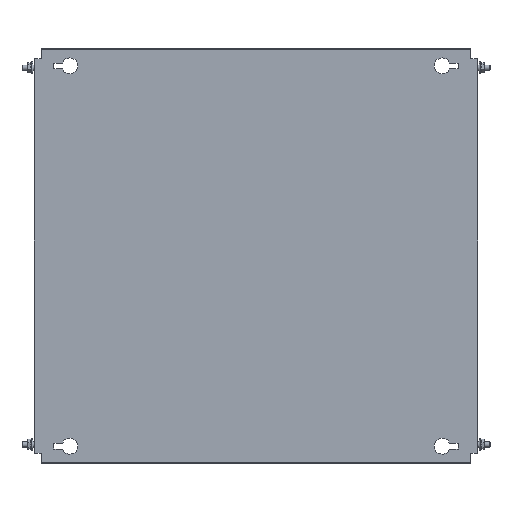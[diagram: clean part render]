
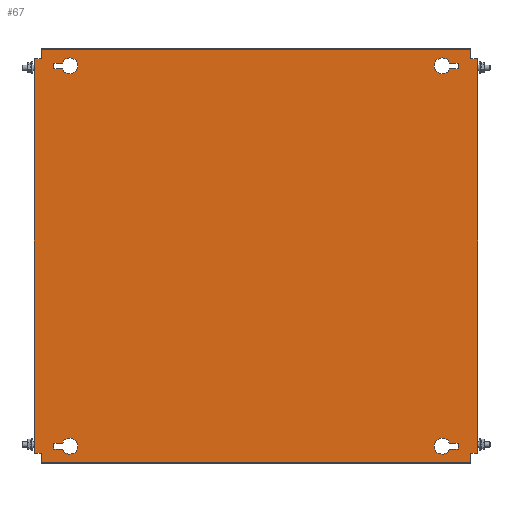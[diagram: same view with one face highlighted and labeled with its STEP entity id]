
A CAD part, top view. The second image highlights one B-rep face of the part: STEP entity #67.
In plain terms, the highlighted planar face has unit normal (0, 0, 1).
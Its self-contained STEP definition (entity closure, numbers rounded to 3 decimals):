
#67 = ADVANCED_FACE('',(#68,#103,#138,#300,#335),#370,.T.);
#68 = FACE_BOUND('',#69,.T.);
#69 = EDGE_LOOP('',(#70,#80,#88,#96));
#70 = ORIENTED_EDGE('',*,*,#71,.T.);
#71 = EDGE_CURVE('',#72,#74,#76,.T.);
#72 = VERTEX_POINT('',#73);
#73 = CARTESIAN_POINT('',(218.393,217.75,2.));
#74 = VERTEX_POINT('',#75);
#75 = CARTESIAN_POINT('',(228.,217.75,2.));
#76 = LINE('',#77,#78);
#77 = CARTESIAN_POINT('',(227.,217.75,2.));
#78 = VECTOR('',#79,1.);
#79 = DIRECTION('',(1.,0.,0.));
#80 = ORIENTED_EDGE('',*,*,#81,.T.);
#81 = EDGE_CURVE('',#74,#82,#84,.T.);
#82 = VERTEX_POINT('',#83);
#83 = CARTESIAN_POINT('',(228.,211.25,2.));
#84 = LINE('',#85,#86);
#85 = CARTESIAN_POINT('',(228.,217.75,2.));
#86 = VECTOR('',#87,1.);
#87 = DIRECTION('',(0.,-1.,0.));
#88 = ORIENTED_EDGE('',*,*,#89,.T.);
#89 = EDGE_CURVE('',#82,#90,#92,.T.);
#90 = VERTEX_POINT('',#91);
#91 = CARTESIAN_POINT('',(218.393,211.25,2.));
#92 = LINE('',#93,#94);
#93 = CARTESIAN_POINT('',(227.,211.25,2.));
#94 = VECTOR('',#95,1.);
#95 = DIRECTION('',(-1.,0.,0.));
#96 = ORIENTED_EDGE('',*,*,#97,.T.);
#97 = EDGE_CURVE('',#90,#72,#98,.T.);
#98 = CIRCLE('',#99,9.);
#99 = AXIS2_PLACEMENT_3D('',#100,#101,#102);
#100 = CARTESIAN_POINT('',(210.,214.5,2.));
#101 = DIRECTION('',(0.,0.,-1.));
#102 = DIRECTION('',(1.,0.,0.));
#103 = FACE_BOUND('',#104,.T.);
#104 = EDGE_LOOP('',(#105,#115,#123,#131));
#105 = ORIENTED_EDGE('',*,*,#106,.T.);
#106 = EDGE_CURVE('',#107,#109,#111,.T.);
#107 = VERTEX_POINT('',#108);
#108 = CARTESIAN_POINT('',(-218.393,-217.75,2.));
#109 = VERTEX_POINT('',#110);
#110 = CARTESIAN_POINT('',(-228.,-217.75,2.));
#111 = LINE('',#112,#113);
#112 = CARTESIAN_POINT('',(-227.,-217.75,2.));
#113 = VECTOR('',#114,1.);
#114 = DIRECTION('',(-1.,0.,0.));
#115 = ORIENTED_EDGE('',*,*,#116,.T.);
#116 = EDGE_CURVE('',#109,#117,#119,.T.);
#117 = VERTEX_POINT('',#118);
#118 = CARTESIAN_POINT('',(-228.,-211.25,2.));
#119 = LINE('',#120,#121);
#120 = CARTESIAN_POINT('',(-228.,-217.75,2.));
#121 = VECTOR('',#122,1.);
#122 = DIRECTION('',(0.,1.,0.));
#123 = ORIENTED_EDGE('',*,*,#124,.T.);
#124 = EDGE_CURVE('',#117,#125,#127,.T.);
#125 = VERTEX_POINT('',#126);
#126 = CARTESIAN_POINT('',(-218.393,-211.25,2.));
#127 = LINE('',#128,#129);
#128 = CARTESIAN_POINT('',(-227.,-211.25,2.));
#129 = VECTOR('',#130,1.);
#130 = DIRECTION('',(1.,-0.,-0.));
#131 = ORIENTED_EDGE('',*,*,#132,.T.);
#132 = EDGE_CURVE('',#125,#107,#133,.T.);
#133 = CIRCLE('',#134,9.);
#134 = AXIS2_PLACEMENT_3D('',#135,#136,#137);
#135 = CARTESIAN_POINT('',(-210.,-214.5,2.));
#136 = DIRECTION('',(0.,0.,-1.));
#137 = DIRECTION('',(-1.,0.,0.));
#138 = FACE_BOUND('',#139,.T.);
#139 = EDGE_LOOP('',(#140,#150,#158,#166,#174,#182,#190,#198,#206,#214,
    #222,#230,#238,#246,#254,#262,#270,#278,#286,#294));
#140 = ORIENTED_EDGE('',*,*,#141,.F.);
#141 = EDGE_CURVE('',#142,#144,#146,.T.);
#142 = VERTEX_POINT('',#143);
#143 = CARTESIAN_POINT('',(-247.4,222.5,2.));
#144 = VERTEX_POINT('',#145);
#145 = CARTESIAN_POINT('',(-242.,222.5,2.));
#146 = LINE('',#147,#148);
#147 = CARTESIAN_POINT('',(-248.,222.5,2.));
#148 = VECTOR('',#149,1.);
#149 = DIRECTION('',(1.,0.,-0.));
#150 = ORIENTED_EDGE('',*,*,#151,.T.);
#151 = EDGE_CURVE('',#142,#152,#154,.T.);
#152 = VERTEX_POINT('',#153);
#153 = CARTESIAN_POINT('',(-250.,222.5,2.));
#154 = LINE('',#155,#156);
#155 = CARTESIAN_POINT('',(-247.4,222.5,2.));
#156 = VECTOR('',#157,1.);
#157 = DIRECTION('',(-1.,0.,0.));
#158 = ORIENTED_EDGE('',*,*,#159,.F.);
#159 = EDGE_CURVE('',#160,#152,#162,.T.);
#160 = VERTEX_POINT('',#161);
#161 = CARTESIAN_POINT('',(-250.,-222.5,2.));
#162 = LINE('',#163,#164);
#163 = CARTESIAN_POINT('',(-250.,-232.5,2.));
#164 = VECTOR('',#165,1.);
#165 = DIRECTION('',(0.,1.,-0.));
#166 = ORIENTED_EDGE('',*,*,#167,.F.);
#167 = EDGE_CURVE('',#168,#160,#170,.T.);
#168 = VERTEX_POINT('',#169);
#169 = CARTESIAN_POINT('',(-247.4,-222.5,2.));
#170 = LINE('',#171,#172);
#171 = CARTESIAN_POINT('',(-242.,-222.5,2.));
#172 = VECTOR('',#173,1.);
#173 = DIRECTION('',(-1.,-0.,-0.));
#174 = ORIENTED_EDGE('',*,*,#175,.T.);
#175 = EDGE_CURVE('',#168,#176,#178,.T.);
#176 = VERTEX_POINT('',#177);
#177 = CARTESIAN_POINT('',(-242.,-222.5,2.));
#178 = LINE('',#179,#180);
#179 = CARTESIAN_POINT('',(-248.,-222.5,2.));
#180 = VECTOR('',#181,1.);
#181 = DIRECTION('',(1.,0.,-0.));
#182 = ORIENTED_EDGE('',*,*,#183,.T.);
#183 = EDGE_CURVE('',#176,#184,#186,.T.);
#184 = VERTEX_POINT('',#185);
#185 = CARTESIAN_POINT('',(-242.,-231.9,2.));
#186 = LINE('',#187,#188);
#187 = CARTESIAN_POINT('',(-242.,232.5,2.));
#188 = VECTOR('',#189,1.);
#189 = DIRECTION('',(0.,-1.,0.));
#190 = ORIENTED_EDGE('',*,*,#191,.T.);
#191 = EDGE_CURVE('',#184,#192,#194,.T.);
#192 = VERTEX_POINT('',#193);
#193 = CARTESIAN_POINT('',(-242.,-232.5,2.));
#194 = LINE('',#195,#196);
#195 = CARTESIAN_POINT('',(-242.,-231.9,2.));
#196 = VECTOR('',#197,1.);
#197 = DIRECTION('',(-0.,-1.,-0.));
#198 = ORIENTED_EDGE('',*,*,#199,.T.);
#199 = EDGE_CURVE('',#192,#200,#202,.T.);
#200 = VERTEX_POINT('',#201);
#201 = CARTESIAN_POINT('',(242.,-232.5,2.));
#202 = LINE('',#203,#204);
#203 = CARTESIAN_POINT('',(242.,-232.5,2.));
#204 = VECTOR('',#205,1.);
#205 = DIRECTION('',(1.,0.,0.));
#206 = ORIENTED_EDGE('',*,*,#207,.F.);
#207 = EDGE_CURVE('',#208,#200,#210,.T.);
#208 = VERTEX_POINT('',#209);
#209 = CARTESIAN_POINT('',(242.,-231.9,2.));
#210 = LINE('',#211,#212);
#211 = CARTESIAN_POINT('',(242.,-232.5,2.));
#212 = VECTOR('',#213,1.);
#213 = DIRECTION('',(0.,-1.,0.));
#214 = ORIENTED_EDGE('',*,*,#215,.T.);
#215 = EDGE_CURVE('',#208,#216,#218,.T.);
#216 = VERTEX_POINT('',#217);
#217 = CARTESIAN_POINT('',(242.,-222.5,2.));
#218 = LINE('',#219,#220);
#219 = CARTESIAN_POINT('',(242.,232.5,2.));
#220 = VECTOR('',#221,1.);
#221 = DIRECTION('',(0.,1.,-0.));
#222 = ORIENTED_EDGE('',*,*,#223,.F.);
#223 = EDGE_CURVE('',#224,#216,#226,.T.);
#224 = VERTEX_POINT('',#225);
#225 = CARTESIAN_POINT('',(247.4,-222.5,2.));
#226 = LINE('',#227,#228);
#227 = CARTESIAN_POINT('',(248.,-222.5,2.));
#228 = VECTOR('',#229,1.);
#229 = DIRECTION('',(-1.,0.,-0.));
#230 = ORIENTED_EDGE('',*,*,#231,.T.);
#231 = EDGE_CURVE('',#224,#232,#234,.T.);
#232 = VERTEX_POINT('',#233);
#233 = CARTESIAN_POINT('',(250.,-222.5,2.));
#234 = LINE('',#235,#236);
#235 = CARTESIAN_POINT('',(247.4,-222.5,2.));
#236 = VECTOR('',#237,1.);
#237 = DIRECTION('',(1.,-0.,0.));
#238 = ORIENTED_EDGE('',*,*,#239,.F.);
#239 = EDGE_CURVE('',#240,#232,#242,.T.);
#240 = VERTEX_POINT('',#241);
#241 = CARTESIAN_POINT('',(250.,222.5,2.));
#242 = LINE('',#243,#244);
#243 = CARTESIAN_POINT('',(250.,-232.5,2.));
#244 = VECTOR('',#245,1.);
#245 = DIRECTION('',(0.,-1.,-0.));
#246 = ORIENTED_EDGE('',*,*,#247,.F.);
#247 = EDGE_CURVE('',#248,#240,#250,.T.);
#248 = VERTEX_POINT('',#249);
#249 = CARTESIAN_POINT('',(247.4,222.5,2.));
#250 = LINE('',#251,#252);
#251 = CARTESIAN_POINT('',(-242.,222.5,2.));
#252 = VECTOR('',#253,1.);
#253 = DIRECTION('',(1.,-0.,0.));
#254 = ORIENTED_EDGE('',*,*,#255,.T.);
#255 = EDGE_CURVE('',#248,#256,#258,.T.);
#256 = VERTEX_POINT('',#257);
#257 = CARTESIAN_POINT('',(242.,222.5,2.));
#258 = LINE('',#259,#260);
#259 = CARTESIAN_POINT('',(248.,222.5,2.));
#260 = VECTOR('',#261,1.);
#261 = DIRECTION('',(-1.,0.,-0.));
#262 = ORIENTED_EDGE('',*,*,#263,.T.);
#263 = EDGE_CURVE('',#256,#264,#266,.T.);
#264 = VERTEX_POINT('',#265);
#265 = CARTESIAN_POINT('',(242.,231.9,2.));
#266 = LINE('',#267,#268);
#267 = CARTESIAN_POINT('',(242.,232.5,2.));
#268 = VECTOR('',#269,1.);
#269 = DIRECTION('',(0.,1.,-0.));
#270 = ORIENTED_EDGE('',*,*,#271,.T.);
#271 = EDGE_CURVE('',#264,#272,#274,.T.);
#272 = VERTEX_POINT('',#273);
#273 = CARTESIAN_POINT('',(242.,232.5,2.));
#274 = LINE('',#275,#276);
#275 = CARTESIAN_POINT('',(242.,231.9,2.));
#276 = VECTOR('',#277,1.);
#277 = DIRECTION('',(-0.,1.,-0.));
#278 = ORIENTED_EDGE('',*,*,#279,.T.);
#279 = EDGE_CURVE('',#272,#280,#282,.T.);
#280 = VERTEX_POINT('',#281);
#281 = CARTESIAN_POINT('',(-242.,232.5,2.));
#282 = LINE('',#283,#284);
#283 = CARTESIAN_POINT('',(-242.,232.5,2.));
#284 = VECTOR('',#285,1.);
#285 = DIRECTION('',(-1.,0.,0.));
#286 = ORIENTED_EDGE('',*,*,#287,.F.);
#287 = EDGE_CURVE('',#288,#280,#290,.T.);
#288 = VERTEX_POINT('',#289);
#289 = CARTESIAN_POINT('',(-242.,231.9,2.));
#290 = LINE('',#291,#292);
#291 = CARTESIAN_POINT('',(-242.,-232.5,2.));
#292 = VECTOR('',#293,1.);
#293 = DIRECTION('',(0.,1.,-0.));
#294 = ORIENTED_EDGE('',*,*,#295,.T.);
#295 = EDGE_CURVE('',#288,#144,#296,.T.);
#296 = LINE('',#297,#298);
#297 = CARTESIAN_POINT('',(-242.,232.5,2.));
#298 = VECTOR('',#299,1.);
#299 = DIRECTION('',(0.,-1.,0.));
#300 = FACE_BOUND('',#301,.T.);
#301 = EDGE_LOOP('',(#302,#312,#320,#328));
#302 = ORIENTED_EDGE('',*,*,#303,.F.);
#303 = EDGE_CURVE('',#304,#306,#308,.T.);
#304 = VERTEX_POINT('',#305);
#305 = CARTESIAN_POINT('',(228.,-211.25,2.));
#306 = VERTEX_POINT('',#307);
#307 = CARTESIAN_POINT('',(218.393,-211.25,2.));
#308 = LINE('',#309,#310);
#309 = CARTESIAN_POINT('',(218.393,-211.25,2.));
#310 = VECTOR('',#311,1.);
#311 = DIRECTION('',(-1.,0.,0.));
#312 = ORIENTED_EDGE('',*,*,#313,.F.);
#313 = EDGE_CURVE('',#314,#304,#316,.T.);
#314 = VERTEX_POINT('',#315);
#315 = CARTESIAN_POINT('',(228.,-217.75,2.));
#316 = LINE('',#317,#318);
#317 = CARTESIAN_POINT('',(228.,-211.25,2.));
#318 = VECTOR('',#319,1.);
#319 = DIRECTION('',(0.,1.,0.));
#320 = ORIENTED_EDGE('',*,*,#321,.F.);
#321 = EDGE_CURVE('',#322,#314,#324,.T.);
#322 = VERTEX_POINT('',#323);
#323 = CARTESIAN_POINT('',(218.393,-217.75,2.));
#324 = LINE('',#325,#326);
#325 = CARTESIAN_POINT('',(227.,-217.75,2.));
#326 = VECTOR('',#327,1.);
#327 = DIRECTION('',(1.,0.,0.));
#328 = ORIENTED_EDGE('',*,*,#329,.F.);
#329 = EDGE_CURVE('',#306,#322,#330,.T.);
#330 = CIRCLE('',#331,9.);
#331 = AXIS2_PLACEMENT_3D('',#332,#333,#334);
#332 = CARTESIAN_POINT('',(210.,-214.5,2.));
#333 = DIRECTION('',(0.,-0.,1.));
#334 = DIRECTION('',(1.,0.,0.));
#335 = FACE_BOUND('',#336,.T.);
#336 = EDGE_LOOP('',(#337,#347,#355,#363));
#337 = ORIENTED_EDGE('',*,*,#338,.F.);
#338 = EDGE_CURVE('',#339,#341,#343,.T.);
#339 = VERTEX_POINT('',#340);
#340 = CARTESIAN_POINT('',(-228.,211.25,2.));
#341 = VERTEX_POINT('',#342);
#342 = CARTESIAN_POINT('',(-218.393,211.25,2.));
#343 = LINE('',#344,#345);
#344 = CARTESIAN_POINT('',(-218.393,211.25,2.));
#345 = VECTOR('',#346,1.);
#346 = DIRECTION('',(1.,0.,0.));
#347 = ORIENTED_EDGE('',*,*,#348,.F.);
#348 = EDGE_CURVE('',#349,#339,#351,.T.);
#349 = VERTEX_POINT('',#350);
#350 = CARTESIAN_POINT('',(-228.,217.75,2.));
#351 = LINE('',#352,#353);
#352 = CARTESIAN_POINT('',(-228.,211.25,2.));
#353 = VECTOR('',#354,1.);
#354 = DIRECTION('',(0.,-1.,0.));
#355 = ORIENTED_EDGE('',*,*,#356,.F.);
#356 = EDGE_CURVE('',#357,#349,#359,.T.);
#357 = VERTEX_POINT('',#358);
#358 = CARTESIAN_POINT('',(-218.393,217.75,2.));
#359 = LINE('',#360,#361);
#360 = CARTESIAN_POINT('',(-227.,217.75,2.));
#361 = VECTOR('',#362,1.);
#362 = DIRECTION('',(-1.,0.,0.));
#363 = ORIENTED_EDGE('',*,*,#364,.F.);
#364 = EDGE_CURVE('',#341,#357,#365,.T.);
#365 = CIRCLE('',#366,9.);
#366 = AXIS2_PLACEMENT_3D('',#367,#368,#369);
#367 = CARTESIAN_POINT('',(-210.,214.5,2.));
#368 = DIRECTION('',(0.,-0.,1.));
#369 = DIRECTION('',(-1.,0.,0.));
#370 = PLANE('',#371);
#371 = AXIS2_PLACEMENT_3D('',#372,#373,#374);
#372 = CARTESIAN_POINT('',(-242.,-232.5,2.));
#373 = DIRECTION('',(-0.,0.,1.));
#374 = DIRECTION('',(1.,0.,0.));
